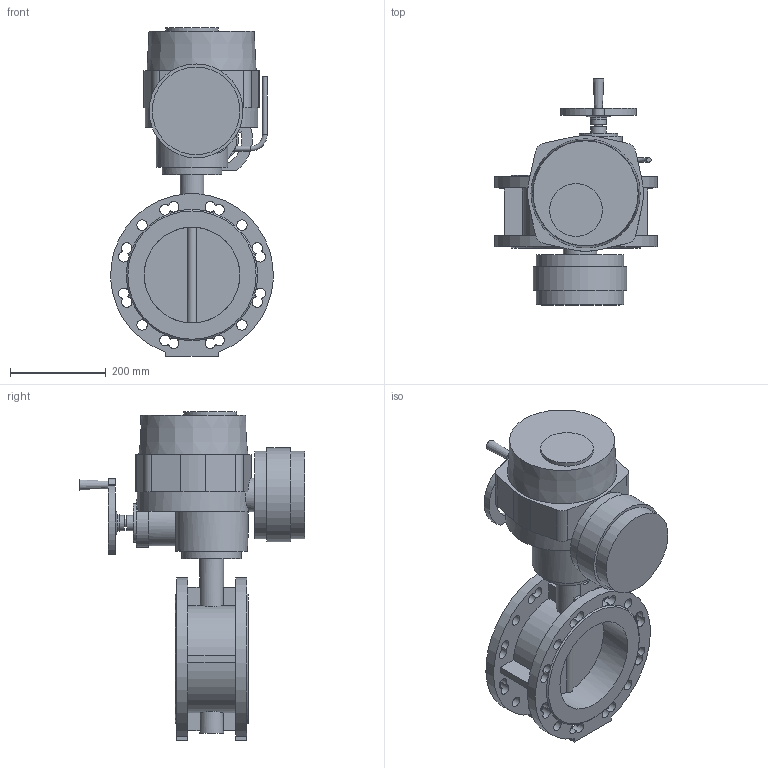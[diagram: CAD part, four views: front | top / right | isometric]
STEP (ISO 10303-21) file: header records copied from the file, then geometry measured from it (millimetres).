
FILE_DESCRIPTION(('STEP AP203'), '1');
FILE_NAME('青蜮铕 021F.Y DN200+菹 QT.A030', '', ('UNSPECIFIED'), ('UNSPECIFIED'), 'ASCON STEP Converter 1.6', 'ASCON Math Kernel', '');
FILE_SCHEMA(('CONFIG_CONTROL_DESIGN'));
Length unit declared in the file: millimetre
Bounding box: 339.6 x 472 x 687 mm (x, y, z)
Volume: 18677587.9 mm3; surface area: 1056612.8 mm2
Topology: 1 solids, 1 shells, 229 faces, 629 edges, 407 vertices
Faces by surface type: plane 123, cylinder 100, cone 5, torus 1
Full cylindrical faces by diameter (mm): 6.7 x8, 10 x2, 12 x4, 16 x1, 22 x8, 32 x2, 35 x1, 50 x2, 70 x1, 80 x1, 100 x1, 110 x1, 125 x1, 150 x1, 183 x2, 196 x1, 200 x2
Entity records: 11925 total; most frequent: CARTESIAN_POINT 4106, DIRECTION 1323, ORIENTED_EDGE 1168, EDGE_CURVE 584, AXIS2_PLACEMENT_3D 563, VERTEX_POINT 407, EDGE_LOOP 333, CIRCLE 333
